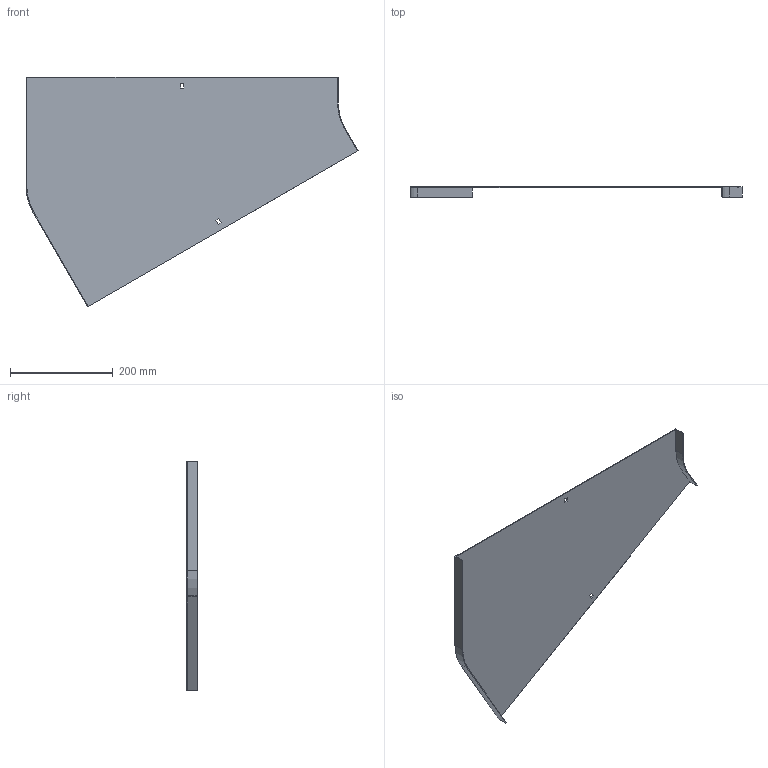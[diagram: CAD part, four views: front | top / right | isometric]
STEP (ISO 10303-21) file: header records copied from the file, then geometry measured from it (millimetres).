
FILE_DESCRIPTION (( 'STEP AP214' ), '1' );
FILE_NAME ('12N1R600.step', '2025-02-21T09:20:33', ( '' ), ( '' ), 'SwSTEP 2.0', 'SolidWorks 2023', '' );
FILE_SCHEMA (( 'AUTOMOTIVE_DESIGN' ));
Length unit declared in the file: millimetre
Products named in the file (1): 12N1R600
Bounding box: 645.2 x 20 x 446.05 mm (x, y, z)
Volume: 304457.2 mm3; surface area: 408910.5 mm2
Topology: 1 solids, 1 shells, 26 faces, 72 edges, 48 vertices
Faces by surface type: plane 22, cylinder 4
Entity records: 855 total; most frequent: CARTESIAN_POINT 147, ORIENTED_EDGE 144, DIRECTION 134, EDGE_CURVE 72, LINE 64, VECTOR 64, VERTEX_POINT 48, AXIS2_PLACEMENT_3D 35
